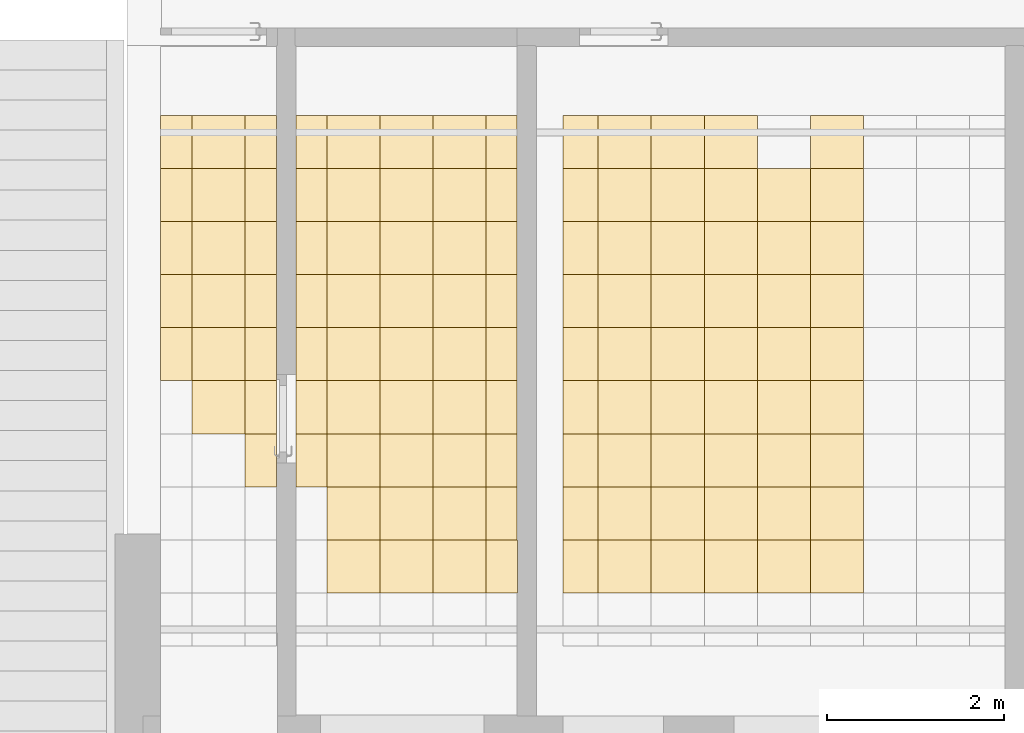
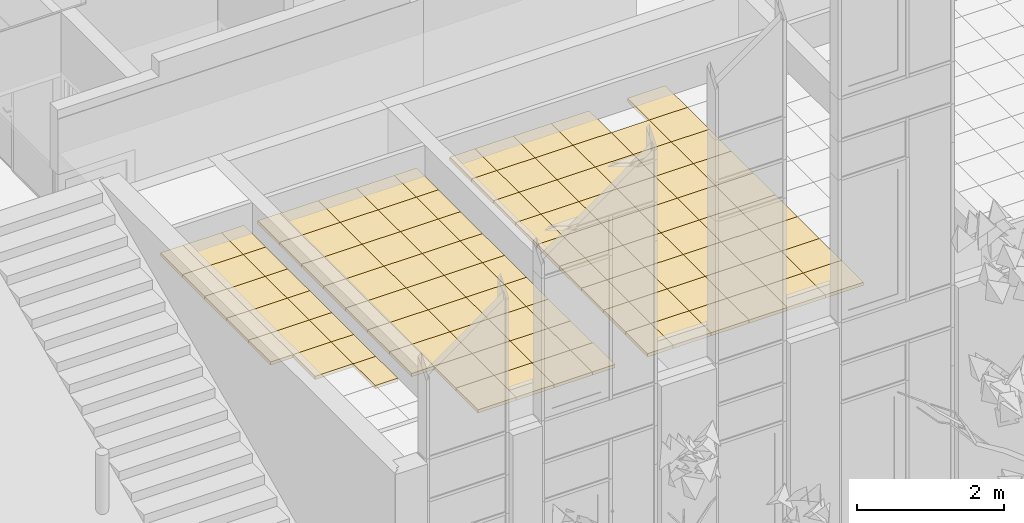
# One storey, part 188 of 246: 114 coverings.
"""IFC2X3 building model written with IfcOpenShell, lengths in millimetres."""

from ifc_helpers import new_model, entity, si_unit, converted_unit, derived_unit, money_unit, direction, frame, origin_with_axes, place, context, subcontext, project, spatial, faceted_brep, material, material_list, type_object, element, save


model = new_model("IFC2X3")

# Units and contexts
model_context = context("Model", 3, precision=0.01, world=origin_with_axes(), true_north=direction((0.0, 1.0)))
body_context = subcontext(model_context, "Body", "Model", "MODEL_VIEW")
ifc_project = project(units=[si_unit("LENGTHUNIT", "METRE", prefix="MILLI"), si_unit("AREAUNIT", "SQUARE_METRE"), si_unit("VOLUMEUNIT", "CUBIC_METRE"), converted_unit("PLANEANGLEUNIT", "DEGREE", entity("IfcPlaneAngleMeasure", 0.0174532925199), si_unit("PLANEANGLEUNIT", "RADIAN"), dimensions=[0, 0, 0, 0, 0, 0, 0]), si_unit("SOLIDANGLEUNIT", "STERADIAN"), money_unit("EUR"), converted_unit("TIMEUNIT", "Year", entity("IfcTimeMeasure", 31556926.0), si_unit("TIMEUNIT", "SECOND"), dimensions=[0, 0, 1, 0, 0, 0, 0]), si_unit("MASSUNIT", "GRAM", prefix="KILO"), si_unit("THERMODYNAMICTEMPERATUREUNIT", "DEGREE_CELSIUS"), si_unit("LUMINOUSINTENSITYUNIT", "LUMEN"), si_unit("ENERGYUNIT", "JOULE", prefix="MEGA"), derived_unit("THERMALCONDUCTANCEUNIT", [(si_unit("POWERUNIT", "WATT"), 1), (si_unit("LENGTHUNIT", "METRE"), -1), (si_unit("THERMODYNAMICTEMPERATUREUNIT", "KELVIN"), -1)]), derived_unit("SPECIFICHEATCAPACITYUNIT", [(si_unit("ENERGYUNIT", "JOULE"), 1), (si_unit("MASSUNIT", "GRAM", prefix="KILO"), -1), (si_unit("THERMODYNAMICTEMPERATUREUNIT", "KELVIN"), -1)]), derived_unit("MASSDENSITYUNIT", [(si_unit("MASSUNIT", "GRAM", prefix="KILO"), 1), (si_unit("VOLUMEUNIT", "CUBIC_METRE"), -1)])], contexts=[model_context])

# Site, building, storey
site_placement = place(None, origin_with_axes())
site = spatial("IfcSite", under=ifc_project, at=site_placement, Name="L.Koidula tn 11b", CompositionType="ELEMENT")
building_placement = place(site_placement, origin_with_axes())
building = spatial("IfcBuilding", under=site, at=building_placement, Name="Rakvere Riigigümnaasium", CompositionType="ELEMENT")
storey_placement = place(building_placement, origin_with_axes())
storey = spatial("IfcBuildingStorey", under=building, at=storey_placement, Name="1.korrus 0,00", CompositionType="ELEMENT", Elevation=0.0)

# Coverings
ifc_material_1 = material(Name="Karkass")
ifc_material_2 = material(Name="Kipsplaat")
ifc_material_list = material_list([ifc_material_1, ifc_material_2])
covering_type = type_object("IfcCoveringType", Name="SA-LV-Kips-moodul 55", PredefinedType="CEILING")
for number, where, z_axis, x_axis, name in (
    (1, (36455.0000521, 11090.4544728, 2750.0), (0.0, 0.0, 1.0), (1.0, 0.0, 0.0), "L-03"),
    (2, (36455.0000521, 10490.4544728, 2750.0), (0.0, 0.0, 1.0), (1.0, 0.0, 0.0), "L-03"),
    (3, (36455.0000521, 9890.4544728, 2750.0), (0.0, 0.0, 1.0), (1.0, 0.0, 0.0), "L-03"),
    (4, (36455.0000521, 9290.4544728, 2750.0), (0.0, 0.0, 1.0), (1.0, 0.0, 0.0), "L-03"),
    (5, (36455.0000521, 8690.4544728, 2750.0), (0.0, 0.0, 1.0), (1.0, 0.0, 0.0), "L-03"),
    (6, (36455.0000521, 8090.4544728, 2750.0), (0.0, 0.0, 1.0), (1.0, 0.0, 0.0), "L-03"),
    (7, (36455.0000521, 11690.4544728, 2750.0), (0.0, 0.0, 1.0), (1.0, 0.0, 0.0), "L-03"),
):
    element("IfcCovering", number, at=place(storey_placement, frame(where, z_axis=z_axis, x_axis=x_axis)), inside=storey, type_object=covering_type, material=ifc_material_list, Name=name, PredefinedType="CEILING", context=body_context, shape_type="Brep", body=[
        faceted_brep([(354.999948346, 0.0, 12.5), (354.999948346, 0.0, 54.5), (0.0, 0.0, 54.5), (0.0, 0.0, 12.5), (354.999948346, 600.0, 12.5), (354.999948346, 600.0, 54.5), (0.0, 600.0, 54.5), (0.0, 600.0, 12.5)], [[[0, 1, 2, 3]], [[4, 5, 1, 0]], [[2, 1, 5, 6]], [[3, 2, 6, 7]], [[3, 7, 4, 0]], [[7, 6, 5, 4]]]),
        faceted_brep([(0.0, 0.0, 0.0), (354.999948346, 0.0, 0.0), (354.999948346, 0.0, 12.5), (0.0, 0.0, 12.5), (0.0, 600.0, 0.0), (354.999948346, 600.0, 0.0), (354.999948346, 600.0, 12.5), (0.0, 600.0, 12.5)], [[[0, 1, 2, 3]], [[0, 4, 5, 1]], [[1, 5, 6, 2]], [[3, 2, 6, 7]], [[4, 0, 3, 7]], [[5, 4, 7, 6]]]),
    ])
covering_1_placement = place(storey_placement, frame((35855.0000521, 8690.4544728, 2750.0), z_axis=(0.0, 0.0, 1.0), x_axis=(1.0, 0.0, 0.0)))
element("IfcCovering", 8, at=covering_1_placement, inside=storey, type_object=covering_type, material=ifc_material_list, Name="L-03", PredefinedType="CEILING", context=body_context, shape_type="Brep", body=[
    faceted_brep([(600.0, 0.0, 12.5), (600.0, 0.0, 54.5), (0.0, 0.0, 54.5), (0.0, 0.0, 12.5), (600.0, 600.0, 12.5), (600.0, 600.0, 54.5), (0.0, 600.0, 54.5), (0.0, 600.0, 12.5)], [[[0, 1, 2, 3]], [[4, 5, 1, 0]], [[2, 1, 5, 6]], [[3, 2, 6, 7]], [[3, 7, 4, 0]], [[7, 6, 5, 4]]]),
    faceted_brep([(0.0, 0.0, 0.0), (600.0, 0.0, 0.0), (600.0, 0.0, 12.5), (0.0, 0.0, 12.5), (0.0, 600.0, 0.0), (600.0, 600.0, 0.0), (600.0, 600.0, 12.5), (0.0, 600.0, 12.5)], [[[0, 1, 2, 3]], [[0, 4, 5, 1]], [[1, 5, 6, 2]], [[3, 2, 6, 7]], [[4, 0, 3, 7]], [[5, 4, 7, 6]]]),
])
covering_2_placement = place(storey_placement, frame((35500.0000521, 9290.4544728, 2750.0), z_axis=(0.0, 0.0, 1.0), x_axis=(1.0, 0.0, 0.0)))
element("IfcCovering", 9, at=covering_2_placement, inside=storey, type_object=covering_type, material=ifc_material_list, Name="L-03", PredefinedType="CEILING", context=body_context, shape_type="Brep", body=[
    faceted_brep([(355.0, 0.0, 12.5), (355.0, 0.0, 54.5), (0.0, 0.0, 54.5), (0.0, 0.0, 12.5), (355.0, 600.0, 12.5), (355.0, 600.0, 54.5), (0.0, 600.0, 54.5), (0.0, 600.0, 12.5)], [[[0, 1, 2, 3]], [[4, 5, 1, 0]], [[2, 1, 5, 6]], [[3, 2, 6, 7]], [[3, 7, 4, 0]], [[7, 6, 5, 4]]]),
    faceted_brep([(0.0, 0.0, 0.0), (355.0, 0.0, 0.0), (355.0, 0.0, 12.5), (0.0, 0.0, 12.5), (0.0, 600.0, 0.0), (355.0, 600.0, 0.0), (355.0, 600.0, 12.5), (0.0, 600.0, 12.5)], [[[0, 1, 2, 3]], [[0, 4, 5, 1]], [[1, 5, 6, 2]], [[3, 2, 6, 7]], [[4, 0, 3, 7]], [[5, 4, 7, 6]]]),
])
covering_3_placement = place(storey_placement, frame((35855.0000521, 9290.4544728, 2750.0), z_axis=(0.0, 0.0, 1.0), x_axis=(1.0, 0.0, 0.0)))
element("IfcCovering", 10, at=covering_3_placement, inside=storey, type_object=covering_type, material=ifc_material_list, Name="L-03", PredefinedType="CEILING", context=body_context, shape_type="Brep", body=[
    faceted_brep([(600.0, 0.0, 12.5), (600.0, 0.0, 54.5), (0.0, 0.0, 54.5), (0.0, 0.0, 12.5), (600.0, 600.0, 12.5), (600.0, 600.0, 54.5), (0.0, 600.0, 54.5), (0.0, 600.0, 12.5)], [[[0, 1, 2, 3]], [[4, 5, 1, 0]], [[2, 1, 5, 6]], [[3, 2, 6, 7]], [[3, 7, 4, 0]], [[7, 6, 5, 4]]]),
    faceted_brep([(0.0, 0.0, 0.0), (600.0, 0.0, 0.0), (600.0, 0.0, 12.5), (0.0, 0.0, 12.5), (0.0, 600.0, 0.0), (600.0, 600.0, 0.0), (600.0, 600.0, 12.5), (0.0, 600.0, 12.5)], [[[0, 1, 2, 3]], [[0, 4, 5, 1]], [[1, 5, 6, 2]], [[3, 2, 6, 7]], [[4, 0, 3, 7]], [[5, 4, 7, 6]]]),
])
covering_4_placement = place(storey_placement, frame((35500.0000521, 9890.4544728, 2750.0), z_axis=(0.0, 0.0, 1.0), x_axis=(1.0, 0.0, 0.0)))
element("IfcCovering", 11, at=covering_4_placement, inside=storey, type_object=covering_type, material=ifc_material_list, Name="L-03", PredefinedType="CEILING", context=body_context, shape_type="Brep", body=[
    faceted_brep([(355.0, 0.0, 12.5), (355.0, 0.0, 54.5), (0.0, 0.0, 54.5), (0.0, 0.0, 12.5), (355.0, 600.0, 12.5), (355.0, 600.0, 54.5), (0.0, 600.0, 54.5), (0.0, 600.0, 12.5)], [[[0, 1, 2, 3]], [[4, 5, 1, 0]], [[2, 1, 5, 6]], [[3, 2, 6, 7]], [[3, 7, 4, 0]], [[7, 6, 5, 4]]]),
    faceted_brep([(0.0, 0.0, 0.0), (355.0, 0.0, 0.0), (355.0, 0.0, 12.5), (0.0, 0.0, 12.5), (0.0, 600.0, 0.0), (355.0, 600.0, 0.0), (355.0, 600.0, 12.5), (0.0, 600.0, 12.5)], [[[0, 1, 2, 3]], [[0, 4, 5, 1]], [[1, 5, 6, 2]], [[3, 2, 6, 7]], [[4, 0, 3, 7]], [[5, 4, 7, 6]]]),
])
covering_5_placement = place(storey_placement, frame((35855.0000521, 9890.4544728, 2750.0), z_axis=(0.0, 0.0, 1.0), x_axis=(1.0, 0.0, 0.0)))
element("IfcCovering", 12, at=covering_5_placement, inside=storey, type_object=covering_type, material=ifc_material_list, Name="L-03", PredefinedType="CEILING", context=body_context, shape_type="Brep", body=[
    faceted_brep([(600.0, 0.0, 12.5), (600.0, 0.0, 54.5), (0.0, 0.0, 54.5), (0.0, 0.0, 12.5), (600.0, 600.0, 12.5), (600.0, 600.0, 54.5), (0.0, 600.0, 54.5), (0.0, 600.0, 12.5)], [[[0, 1, 2, 3]], [[4, 5, 1, 0]], [[2, 1, 5, 6]], [[3, 2, 6, 7]], [[3, 7, 4, 0]], [[7, 6, 5, 4]]]),
    faceted_brep([(0.0, 0.0, 0.0), (600.0, 0.0, 0.0), (600.0, 0.0, 12.5), (0.0, 0.0, 12.5), (0.0, 600.0, 0.0), (600.0, 600.0, 0.0), (600.0, 600.0, 12.5), (0.0, 600.0, 12.5)], [[[0, 1, 2, 3]], [[0, 4, 5, 1]], [[1, 5, 6, 2]], [[3, 2, 6, 7]], [[4, 0, 3, 7]], [[5, 4, 7, 6]]]),
])
covering_6_placement = place(storey_placement, frame((35500.0000521, 10490.4544728, 2750.0), z_axis=(0.0, 0.0, 1.0), x_axis=(1.0, 0.0, 0.0)))
element("IfcCovering", 13, at=covering_6_placement, inside=storey, type_object=covering_type, material=ifc_material_list, Name="L-03", PredefinedType="CEILING", context=body_context, shape_type="Brep", body=[
    faceted_brep([(355.0, 0.0, 12.5), (355.0, 0.0, 54.5), (0.0, 0.0, 54.5), (0.0, 0.0, 12.5), (355.0, 600.0, 12.5), (355.0, 600.0, 54.5), (0.0, 600.0, 54.5), (0.0, 600.0, 12.5)], [[[0, 1, 2, 3]], [[4, 5, 1, 0]], [[2, 1, 5, 6]], [[3, 2, 6, 7]], [[3, 7, 4, 0]], [[7, 6, 5, 4]]]),
    faceted_brep([(0.0, 0.0, 0.0), (355.0, 0.0, 0.0), (355.0, 0.0, 12.5), (0.0, 0.0, 12.5), (0.0, 600.0, 0.0), (355.0, 600.0, 0.0), (355.0, 600.0, 12.5), (0.0, 600.0, 12.5)], [[[0, 1, 2, 3]], [[0, 4, 5, 1]], [[1, 5, 6, 2]], [[3, 2, 6, 7]], [[4, 0, 3, 7]], [[5, 4, 7, 6]]]),
])
covering_7_placement = place(storey_placement, frame((35855.0000521, 10490.4544728, 2750.0), z_axis=(0.0, 0.0, 1.0), x_axis=(1.0, 0.0, 0.0)))
element("IfcCovering", 14, at=covering_7_placement, inside=storey, type_object=covering_type, material=ifc_material_list, Name="L-03", PredefinedType="CEILING", context=body_context, shape_type="Brep", body=[
    faceted_brep([(600.0, 0.0, 12.5), (600.0, 0.0, 54.5), (0.0, 0.0, 54.5), (0.0, 0.0, 12.5), (600.0, 600.0, 12.5), (600.0, 600.0, 54.5), (0.0, 600.0, 54.5), (0.0, 600.0, 12.5)], [[[0, 1, 2, 3]], [[4, 5, 1, 0]], [[2, 1, 5, 6]], [[3, 2, 6, 7]], [[3, 7, 4, 0]], [[7, 6, 5, 4]]]),
    faceted_brep([(0.0, 0.0, 0.0), (600.0, 0.0, 0.0), (600.0, 0.0, 12.5), (0.0, 0.0, 12.5), (0.0, 600.0, 0.0), (600.0, 600.0, 0.0), (600.0, 600.0, 12.5), (0.0, 600.0, 12.5)], [[[0, 1, 2, 3]], [[0, 4, 5, 1]], [[1, 5, 6, 2]], [[3, 2, 6, 7]], [[4, 0, 3, 7]], [[5, 4, 7, 6]]]),
])
covering_8_placement = place(storey_placement, frame((35500.0000521, 11090.4544728, 2750.0), z_axis=(0.0, 0.0, 1.0), x_axis=(1.0, 0.0, 0.0)))
element("IfcCovering", 15, at=covering_8_placement, inside=storey, type_object=covering_type, material=ifc_material_list, Name="L-03", PredefinedType="CEILING", context=body_context, shape_type="Brep", body=[
    faceted_brep([(355.0, 0.0, 12.5), (355.0, 0.0, 54.5), (0.0, 0.0, 54.5), (0.0, 0.0, 12.5), (355.0, 600.0, 12.5), (355.0, 600.0, 54.5), (0.0, 600.0, 54.5), (0.0, 600.0, 12.5)], [[[0, 1, 2, 3]], [[4, 5, 1, 0]], [[2, 1, 5, 6]], [[3, 2, 6, 7]], [[3, 7, 4, 0]], [[7, 6, 5, 4]]]),
    faceted_brep([(0.0, 0.0, 0.0), (355.0, 0.0, 0.0), (355.0, 0.0, 12.5), (0.0, 0.0, 12.5), (0.0, 600.0, 0.0), (355.0, 600.0, 0.0), (355.0, 600.0, 12.5), (0.0, 600.0, 12.5)], [[[0, 1, 2, 3]], [[0, 4, 5, 1]], [[1, 5, 6, 2]], [[3, 2, 6, 7]], [[4, 0, 3, 7]], [[5, 4, 7, 6]]]),
])
for number, where, z_axis, x_axis, name in (
    (16, (35855.0000521, 11090.4544728, 2750.0), (0.0, 0.0, 1.0), (1.0, 0.0, 0.0), "L-03"),
    (17, (35855.0000521, 11690.4544728, 2750.0), (0.0, 0.0, 1.0), (1.0, 0.0, 0.0), "L-03"),
):
    element("IfcCovering", number, at=place(storey_placement, frame(where, z_axis=z_axis, x_axis=x_axis)), inside=storey, type_object=covering_type, material=ifc_material_list, Name=name, PredefinedType="CEILING", context=body_context, shape_type="Brep", body=[
        faceted_brep([(600.0, 0.0, 12.5), (600.0, 0.0, 54.5), (0.0, 0.0, 54.5), (0.0, 0.0, 12.5), (600.0, 600.0, 12.5), (600.0, 600.0, 54.5), (0.0, 600.0, 54.5), (0.0, 600.0, 12.5)], [[[0, 1, 2, 3]], [[4, 5, 1, 0]], [[2, 1, 5, 6]], [[3, 2, 6, 7]], [[3, 7, 4, 0]], [[7, 6, 5, 4]]]),
        faceted_brep([(0.0, 0.0, 0.0), (600.0, 0.0, 0.0), (600.0, 0.0, 12.5), (0.0, 0.0, 12.5), (0.0, 600.0, 0.0), (600.0, 600.0, 0.0), (600.0, 600.0, 12.5), (0.0, 600.0, 12.5)], [[[0, 1, 2, 3]], [[0, 4, 5, 1]], [[1, 5, 6, 2]], [[3, 2, 6, 7]], [[4, 0, 3, 7]], [[5, 4, 7, 6]]]),
    ])
covering_9_placement = place(storey_placement, frame((35500.0000521, 11690.4544728, 2750.0), z_axis=(0.0, 0.0, 1.0), x_axis=(1.0, 0.0, 0.0)))
element("IfcCovering", 18, at=covering_9_placement, inside=storey, type_object=covering_type, material=ifc_material_list, Name="L-03", PredefinedType="CEILING", context=body_context, shape_type="Brep", body=[
    faceted_brep([(355.0, 0.0, 12.5), (355.0, 0.0, 54.5), (0.0, 0.0, 54.5), (0.0, 0.0, 12.5), (355.0, 600.0, 12.5), (355.0, 600.0, 54.5), (0.0, 600.0, 54.5), (0.0, 600.0, 12.5)], [[[0, 1, 2, 3]], [[4, 5, 1, 0]], [[2, 1, 5, 6]], [[3, 2, 6, 7]], [[3, 7, 4, 0]], [[7, 6, 5, 4]]]),
    faceted_brep([(0.0, 0.0, 0.0), (355.0, 0.0, 0.0), (355.0, 0.0, 12.5), (0.0, 0.0, 12.5), (0.0, 600.0, 0.0), (355.0, 600.0, 0.0), (355.0, 600.0, 12.5), (0.0, 600.0, 12.5)], [[[0, 1, 2, 3]], [[0, 4, 5, 1]], [[1, 5, 6, 2]], [[3, 2, 6, 7]], [[4, 0, 3, 7]], [[5, 4, 7, 6]]]),
])
for number, where, z_axis, x_axis, name in (
    (19, (37380.0000024, 11090.4579673, 2750.0), (0.0, 0.0, 1.0), (1.0, 0.0, 0.0), "L-03"),
    (20, (37380.0000024, 10490.4579673, 2750.0), (0.0, 0.0, 1.0), (1.0, 0.0, 0.0), "L-03"),
    (21, (37380.0000024, 9890.45796731, 2750.0), (0.0, 0.0, 1.0), (1.0, 0.0, 0.0), "L-03"),
    (22, (37380.0000024, 9290.45796731, 2750.0), (0.0, 0.0, 1.0), (1.0, 0.0, 0.0), "L-03"),
    (23, (37380.0000024, 8690.45796731, 2750.0), (0.0, 0.0, 1.0), (1.0, 0.0, 0.0), "L-03"),
    (24, (37380.0000024, 8090.45796731, 2750.0), (0.0, 0.0, 1.0), (1.0, 0.0, 0.0), "L-03"),
    (25, (37380.0000024, 7490.45796731, 2750.0), (0.0, 0.0, 1.0), (1.0, 0.0, 0.0), "L-03"),
    (26, (37380.0000024, 11690.4579673, 2750.0), (0.0, 0.0, 1.0), (1.0, 0.0, 0.0), "L-03"),
    (27, (37380.0000024, 6890.45796731, 2750.0), (0.0, 0.0, 1.0), (1.0, 0.0, 0.0), "L-03"),
):
    element("IfcCovering", number, at=place(storey_placement, frame(where, z_axis=z_axis, x_axis=x_axis)), inside=storey, type_object=covering_type, material=ifc_material_list, Name=name, PredefinedType="CEILING", context=body_context, shape_type="Brep", body=[
        faceted_brep([(599.999948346, 0.0, 12.5), (599.999948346, 0.0, 54.5), (0.0, 0.0, 54.5), (0.0, 0.0, 12.5), (599.999948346, 600.0, 12.5), (599.999948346, 600.0, 54.5), (0.0, 600.0, 54.5), (0.0, 600.0, 12.5)], [[[0, 1, 2, 3]], [[4, 5, 1, 0]], [[2, 1, 5, 6]], [[3, 2, 6, 7]], [[3, 7, 4, 0]], [[7, 6, 5, 4]]]),
        faceted_brep([(0.0, 0.0, 0.0), (599.999948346, 0.0, 0.0), (599.999948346, 0.0, 12.5), (0.0, 0.0, 12.5), (0.0, 600.0, 0.0), (599.999948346, 600.0, 0.0), (599.999948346, 600.0, 12.5), (0.0, 600.0, 12.5)], [[[0, 1, 2, 3]], [[0, 4, 5, 1]], [[1, 5, 6, 2]], [[3, 2, 6, 7]], [[4, 0, 3, 7]], [[5, 4, 7, 6]]]),
    ])
for number, where, z_axis, x_axis, name in (
    (28, (37030.0000024, 8090.45796731, 2750.0), (0.0, 0.0, 1.0), (1.0, 0.0, 0.0), "L-03"),
    (29, (37030.0000024, 8690.45796731, 2750.0), (0.0, 0.0, 1.0), (1.0, 0.0, 0.0), "L-03"),
    (30, (37030.0000024, 9290.45796731, 2750.0), (0.0, 0.0, 1.0), (1.0, 0.0, 0.0), "L-03"),
    (31, (37030.0000024, 9890.45796731, 2750.0), (0.0, 0.0, 1.0), (1.0, 0.0, 0.0), "L-03"),
    (32, (37030.0000024, 10490.4579673, 2750.0), (0.0, 0.0, 1.0), (1.0, 0.0, 0.0), "L-03"),
    (33, (37030.0000024, 11090.4579673, 2750.0), (0.0, 0.0, 1.0), (1.0, 0.0, 0.0), "L-03"),
    (34, (37030.0000024, 11690.4579673, 2750.0), (0.0, 0.0, 1.0), (1.0, 0.0, 0.0), "L-03"),
):
    element("IfcCovering", number, at=place(storey_placement, frame(where, z_axis=z_axis, x_axis=x_axis)), inside=storey, type_object=covering_type, material=ifc_material_list, Name=name, PredefinedType="CEILING", context=body_context, shape_type="Brep", body=[
        faceted_brep([(350.0, 0.0, 12.5), (350.0, 0.0, 54.5), (0.0, 0.0, 54.5), (0.0, 0.0, 12.5), (350.0, 600.0, 12.5), (350.0, 600.0, 54.5), (0.0, 600.0, 54.5), (0.0, 600.0, 12.5)], [[[0, 1, 2, 3]], [[4, 5, 1, 0]], [[2, 1, 5, 6]], [[3, 2, 6, 7]], [[3, 7, 4, 0]], [[7, 6, 5, 4]]]),
        faceted_brep([(0.0, 0.0, 0.0), (350.0, 0.0, 0.0), (350.0, 0.0, 12.5), (0.0, 0.0, 12.5), (0.0, 600.0, 0.0), (350.0, 600.0, 0.0), (350.0, 600.0, 12.5), (0.0, 600.0, 12.5)], [[[0, 1, 2, 3]], [[0, 4, 5, 1]], [[1, 5, 6, 2]], [[3, 2, 6, 7]], [[4, 0, 3, 7]], [[5, 4, 7, 6]]]),
    ])
for number, where, z_axis, x_axis, name in (
    (35, (38579.9999508, 11090.4579673, 2750.0), (0.0, 0.0, 1.0), (1.0, 0.0, 0.0), "L-03"),
    (36, (38579.9999508, 10490.4579673, 2750.0), (0.0, 0.0, 1.0), (1.0, 0.0, 0.0), "L-03"),
    (37, (38579.9999508, 9890.45796731, 2750.0), (0.0, 0.0, 1.0), (1.0, 0.0, 0.0), "L-03"),
    (38, (38579.9999508, 9290.45796731, 2750.0), (0.0, 0.0, 1.0), (1.0, 0.0, 0.0), "L-03"),
    (39, (38579.9999508, 8690.45796731, 2750.0), (0.0, 0.0, 1.0), (1.0, 0.0, 0.0), "L-03"),
    (40, (38579.9999508, 8090.45796731, 2750.0), (0.0, 0.0, 1.0), (1.0, 0.0, 0.0), "L-03"),
    (41, (38579.9999508, 7490.45796731, 2750.0), (0.0, 0.0, 1.0), (1.0, 0.0, 0.0), "L-03"),
    (42, (38579.9999508, 11690.4579673, 2750.0), (0.0, 0.0, 1.0), (1.0, 0.0, 0.0), "L-03"),
    (43, (38579.9999508, 6890.45796731, 2750.0), (0.0, 0.0, 1.0), (1.0, 0.0, 0.0), "L-03"),
):
    element("IfcCovering", number, at=place(storey_placement, frame(where, z_axis=z_axis, x_axis=x_axis)), inside=storey, type_object=covering_type, material=ifc_material_list, Name=name, PredefinedType="CEILING", context=body_context, shape_type="Brep", body=[
        faceted_brep([(599.999948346, 0.0, 12.5), (599.999948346, 0.0, 54.5), (0.0, 0.0, 54.5), (0.0, 0.0, 12.5), (599.999948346, 600.0, 12.5), (599.999948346, 600.0, 54.5), (0.0, 600.0, 54.5), (0.0, 600.0, 12.5)], [[[0, 1, 2, 3]], [[4, 5, 1, 0]], [[2, 1, 5, 6]], [[3, 2, 6, 7]], [[3, 7, 4, 0]], [[7, 6, 5, 4]]]),
        faceted_brep([(0.0, 0.0, 0.0), (599.999948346, 0.0, 0.0), (599.999948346, 0.0, 12.5), (0.0, 0.0, 12.5), (0.0, 600.0, 0.0), (599.999948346, 600.0, 0.0), (599.999948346, 600.0, 12.5), (0.0, 600.0, 12.5)], [[[0, 1, 2, 3]], [[0, 4, 5, 1]], [[1, 5, 6, 2]], [[3, 2, 6, 7]], [[4, 0, 3, 7]], [[5, 4, 7, 6]]]),
    ])
for number, where, z_axis, x_axis, name in (
    (44, (37979.9999508, 7490.45796731, 2750.0), (0.0, 0.0, 1.0), (1.0, 0.0, 0.0), "L-03"),
    (45, (37979.9999508, 8090.45796731, 2750.0), (0.0, 0.0, 1.0), (1.0, 0.0, 0.0), "L-03"),
    (46, (37979.9999508, 8690.45796731, 2750.0), (0.0, 0.0, 1.0), (1.0, 0.0, 0.0), "L-03"),
    (47, (37979.9999508, 9290.45796731, 2750.0), (0.0, 0.0, 1.0), (1.0, 0.0, 0.0), "L-03"),
    (48, (37979.9999508, 9890.45796731, 2750.0), (0.0, 0.0, 1.0), (1.0, 0.0, 0.0), "L-03"),
    (49, (37979.9999508, 10490.4579673, 2750.0), (0.0, 0.0, 1.0), (1.0, 0.0, 0.0), "L-03"),
    (50, (37979.9999508, 11090.4579673, 2750.0), (0.0, 0.0, 1.0), (1.0, 0.0, 0.0), "L-03"),
    (51, (37979.9999508, 11690.4579673, 2750.0), (0.0, 0.0, 1.0), (1.0, 0.0, 0.0), "L-03"),
    (52, (37979.9999508, 6890.45796731, 2750.0), (0.0, 0.0, 1.0), (1.0, 0.0, 0.0), "L-03"),
):
    element("IfcCovering", number, at=place(storey_placement, frame(where, z_axis=z_axis, x_axis=x_axis)), inside=storey, type_object=covering_type, material=ifc_material_list, Name=name, PredefinedType="CEILING", context=body_context, shape_type="Brep", body=[
        faceted_brep([(600.0, 0.0, 12.5), (600.0, 0.0, 54.5), (0.0, 0.0, 54.5), (0.0, 0.0, 12.5), (600.0, 600.0, 12.5), (600.0, 600.0, 54.5), (0.0, 600.0, 54.5), (0.0, 600.0, 12.5)], [[[0, 1, 2, 3]], [[4, 5, 1, 0]], [[2, 1, 5, 6]], [[3, 2, 6, 7]], [[3, 7, 4, 0]], [[7, 6, 5, 4]]]),
        faceted_brep([(0.0, 0.0, 0.0), (600.0, 0.0, 0.0), (600.0, 0.0, 12.5), (0.0, 0.0, 12.5), (0.0, 600.0, 0.0), (600.0, 600.0, 0.0), (600.0, 600.0, 12.5), (0.0, 600.0, 12.5)], [[[0, 1, 2, 3]], [[0, 4, 5, 1]], [[1, 5, 6, 2]], [[3, 2, 6, 7]], [[4, 0, 3, 7]], [[5, 4, 7, 6]]]),
    ])
for number, where, z_axis, x_axis, name in (
    (53, (39179.9998991, 7490.45796731, 2750.0), (0.0, 0.0, 1.0), (1.0, 0.0, 0.0), "L-03"),
    (54, (39179.9998991, 8090.45796731, 2750.0), (0.0, 0.0, 1.0), (1.0, 0.0, 0.0), "L-03"),
    (55, (39179.9998991, 8690.45796731, 2750.0), (0.0, 0.0, 1.0), (1.0, 0.0, 0.0), "L-03"),
    (56, (39179.9998991, 9290.45796731, 2750.0), (0.0, 0.0, 1.0), (1.0, 0.0, 0.0), "L-03"),
    (57, (39179.9998991, 9890.45796731, 2750.0), (0.0, 0.0, 1.0), (1.0, 0.0, 0.0), "L-03"),
    (58, (39179.9998991, 10490.4579673, 2750.0), (0.0, 0.0, 1.0), (1.0, 0.0, 0.0), "L-03"),
    (59, (39179.9998991, 11090.4579673, 2750.0), (0.0, 0.0, 1.0), (1.0, 0.0, 0.0), "L-03"),
    (60, (39179.9998991, 11690.4579673, 2750.0), (0.0, 0.0, 1.0), (1.0, 0.0, 0.0), "L-03"),
):
    element("IfcCovering", number, at=place(storey_placement, frame(where, z_axis=z_axis, x_axis=x_axis)), inside=storey, type_object=covering_type, material=ifc_material_list, Name=name, PredefinedType="CEILING", context=body_context, shape_type="Brep", body=[
        faceted_brep([(350.000101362, 0.0, 12.5), (350.000101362, 0.0, 54.5), (0.0, 0.0, 54.5), (0.0, 0.0, 12.5), (350.000101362, 600.0, 12.5), (350.000101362, 600.0, 54.5), (0.0, 600.0, 54.5), (0.0, 600.0, 12.5)], [[[0, 1, 2, 3]], [[4, 5, 1, 0]], [[2, 1, 5, 6]], [[3, 2, 6, 7]], [[3, 7, 4, 0]], [[7, 6, 5, 4]]]),
        faceted_brep([(0.0, 0.0, 0.0), (350.000101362, 0.0, 0.0), (350.000101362, 0.0, 12.5), (0.0, 0.0, 12.5), (0.0, 600.0, 0.0), (350.000101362, 600.0, 0.0), (350.000101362, 600.0, 12.5), (0.0, 600.0, 12.5)], [[[0, 1, 2, 3]], [[0, 4, 5, 1]], [[1, 5, 6, 2]], [[3, 2, 6, 7]], [[4, 0, 3, 7]], [[5, 4, 7, 6]]]),
    ])
covering_10_placement = place(storey_placement, frame((39179.9998991, 6890.45796731, 2750.0), z_axis=(0.0, 0.0, 1.0), x_axis=(1.0, 0.0, 0.0)))
element("IfcCovering", 61, at=covering_10_placement, inside=storey, type_object=covering_type, material=ifc_material_list, Name="L-03", PredefinedType="CEILING", context=body_context, shape_type="Brep", body=[
    faceted_brep([(360.000101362, 0.0, 12.5), (360.000101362, 0.0, 54.5), (0.0, 0.0, 54.5), (0.0, 0.0, 12.5), (360.000101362, 600.0, 12.5), (360.000101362, 600.0, 54.5), (0.0, 600.0, 54.5), (0.0, 600.0, 12.5)], [[[0, 1, 2, 3]], [[4, 5, 1, 0]], [[2, 1, 5, 6]], [[3, 2, 6, 7]], [[3, 7, 4, 0]], [[7, 6, 5, 4]]]),
    faceted_brep([(0.0, 0.0, 0.0), (360.000101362, 0.0, 0.0), (360.000101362, 0.0, 12.5), (0.0, 0.0, 12.5), (0.0, 600.0, 0.0), (360.000101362, 600.0, 0.0), (360.000101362, 600.0, 12.5), (0.0, 600.0, 12.5)], [[[0, 1, 2, 3]], [[0, 4, 5, 1]], [[1, 5, 6, 2]], [[3, 2, 6, 7]], [[4, 0, 3, 7]], [[5, 4, 7, 6]]]),
])
for number, where, z_axis, x_axis, name in (
    (62, (40450.0011648, 11090.4535941, 2750.0), (0.0, 0.0, 1.0), (1.0, 0.0, 0.0), "L-03"),
    (63, (40450.0011648, 10490.4535941, 2750.0), (0.0, 0.0, 1.0), (1.0, 0.0, 0.0), "L-03"),
    (64, (40450.0011648, 9890.45359412, 2750.0), (0.0, 0.0, 1.0), (1.0, 0.0, 0.0), "L-03"),
    (65, (40450.0011648, 9290.45359412, 2750.0), (0.0, 0.0, 1.0), (1.0, 0.0, 0.0), "L-03"),
    (66, (40450.0011648, 8690.45359412, 2750.0), (0.0, 0.0, 1.0), (1.0, 0.0, 0.0), "L-03"),
    (67, (40450.0011648, 8090.45359412, 2750.0), (0.0, 0.0, 1.0), (1.0, 0.0, 0.0), "L-03"),
    (68, (40450.0011648, 7490.45359412, 2750.0), (0.0, 0.0, 1.0), (1.0, 0.0, 0.0), "L-03"),
    (69, (40450.0011648, 11690.4535941, 2750.0), (0.0, 0.0, 1.0), (1.0, 0.0, 0.0), "L-03"),
    (70, (40450.0011648, 6890.45359412, 2750.0), (0.0, 0.0, 1.0), (1.0, 0.0, 0.0), "L-03"),
):
    element("IfcCovering", number, at=place(storey_placement, frame(where, z_axis=z_axis, x_axis=x_axis)), inside=storey, type_object=covering_type, material=ifc_material_list, Name=name, PredefinedType="CEILING", context=body_context, shape_type="Brep", body=[
        faceted_brep([(599.999948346, 0.0, 12.5), (599.999948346, 0.0, 54.5), (0.0, 0.0, 54.5), (0.0, 0.0, 12.5), (599.999948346, 600.0, 12.5), (599.999948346, 600.0, 54.5), (0.0, 600.0, 54.5), (0.0, 600.0, 12.5)], [[[0, 1, 2, 3]], [[4, 5, 1, 0]], [[2, 1, 5, 6]], [[3, 2, 6, 7]], [[3, 7, 4, 0]], [[7, 6, 5, 4]]]),
        faceted_brep([(0.0, 0.0, 0.0), (599.999948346, 0.0, 0.0), (599.999948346, 0.0, 12.5), (0.0, 0.0, 12.5), (0.0, 600.0, 0.0), (599.999948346, 600.0, 0.0), (599.999948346, 600.0, 12.5), (0.0, 600.0, 12.5)], [[[0, 1, 2, 3]], [[0, 4, 5, 1]], [[1, 5, 6, 2]], [[3, 2, 6, 7]], [[4, 0, 3, 7]], [[5, 4, 7, 6]]]),
    ])
for number, where, z_axis, x_axis, name in (
    (71, (40049.9999972, 7490.45359412, 2750.0), (0.0, 0.0, 1.0), (1.0, 0.0, 0.0), "L-03"),
    (72, (40049.9999972, 8090.45359412, 2750.0), (0.0, 0.0, 1.0), (1.0, 0.0, 0.0), "L-03"),
    (73, (40049.9999972, 8690.45359412, 2750.0), (0.0, 0.0, 1.0), (1.0, 0.0, 0.0), "L-03"),
    (74, (40049.9999972, 9290.45359412, 2750.0), (0.0, 0.0, 1.0), (1.0, 0.0, 0.0), "L-03"),
    (75, (40049.9999972, 9890.45359412, 2750.0), (0.0, 0.0, 1.0), (1.0, 0.0, 0.0), "L-03"),
    (76, (40049.9999972, 10490.4535941, 2750.0), (0.0, 0.0, 1.0), (1.0, 0.0, 0.0), "L-03"),
    (77, (40049.9999972, 11090.4535941, 2750.0), (0.0, 0.0, 1.0), (1.0, 0.0, 0.0), "L-03"),
    (78, (40049.9999972, 11690.4535941, 2750.0), (0.0, 0.0, 1.0), (1.0, 0.0, 0.0), "L-03"),
    (79, (40049.9999972, 6890.45359412, 2750.0), (0.0, 0.0, 1.0), (1.0, 0.0, 0.0), "L-03"),
):
    element("IfcCovering", number, at=place(storey_placement, frame(where, z_axis=z_axis, x_axis=x_axis)), inside=storey, type_object=covering_type, material=ifc_material_list, Name=name, PredefinedType="CEILING", context=body_context, shape_type="Brep", body=[
        faceted_brep([(400.001167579, 0.0, 12.5), (400.001167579, 0.0, 54.5), (0.0, 0.0, 54.5), (0.0, 0.0, 12.5), (400.001167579, 600.0, 12.5), (400.001167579, 600.0, 54.5), (0.0, 600.0, 54.5), (0.0, 600.0, 12.5)], [[[0, 1, 2, 3]], [[4, 5, 1, 0]], [[2, 1, 5, 6]], [[3, 2, 6, 7]], [[3, 7, 4, 0]], [[7, 6, 5, 4]]]),
        faceted_brep([(0.0, 0.0, 0.0), (400.001167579, 0.0, 0.0), (400.001167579, 0.0, 12.5), (0.0, 0.0, 12.5), (0.0, 600.0, 0.0), (400.001167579, 600.0, 0.0), (400.001167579, 600.0, 12.5), (0.0, 600.0, 12.5)], [[[0, 1, 2, 3]], [[0, 4, 5, 1]], [[1, 5, 6, 2]], [[3, 2, 6, 7]], [[4, 0, 3, 7]], [[5, 4, 7, 6]]]),
    ])
for number, where, z_axis, x_axis, name in (
    (80, (41650.0011131, 11090.4535941, 2750.0), (0.0, 0.0, 1.0), (1.0, 0.0, 0.0), "L-03"),
    (81, (41650.0011131, 10490.4535941, 2750.0), (0.0, 0.0, 1.0), (1.0, 0.0, 0.0), "L-03"),
    (82, (41650.0011131, 9890.45359412, 2750.0), (0.0, 0.0, 1.0), (1.0, 0.0, 0.0), "L-03"),
    (83, (41650.0011131, 9290.45359412, 2750.0), (0.0, 0.0, 1.0), (1.0, 0.0, 0.0), "L-03"),
    (84, (41650.0011131, 8690.45359412, 2750.0), (0.0, 0.0, 1.0), (1.0, 0.0, 0.0), "L-03"),
    (85, (41650.0011131, 8090.45359412, 2750.0), (0.0, 0.0, 1.0), (1.0, 0.0, 0.0), "L-03"),
    (86, (41650.0011131, 7490.45359412, 2750.0), (0.0, 0.0, 1.0), (1.0, 0.0, 0.0), "L-03"),
    (87, (41650.0011131, 11690.4535941, 2750.0), (0.0, 0.0, 1.0), (1.0, 0.0, 0.0), "L-03"),
    (88, (41650.0011131, 6890.45359412, 2750.0), (0.0, 0.0, 1.0), (1.0, 0.0, 0.0), "L-03"),
):
    element("IfcCovering", number, at=place(storey_placement, frame(where, z_axis=z_axis, x_axis=x_axis)), inside=storey, type_object=covering_type, material=ifc_material_list, Name=name, PredefinedType="CEILING", context=body_context, shape_type="Brep", body=[
        faceted_brep([(599.999948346, 0.0, 12.5), (599.999948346, 0.0, 54.5), (0.0, 0.0, 54.5), (0.0, 0.0, 12.5), (599.999948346, 600.0, 12.5), (599.999948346, 600.0, 54.5), (0.0, 600.0, 54.5), (0.0, 600.0, 12.5)], [[[0, 1, 2, 3]], [[4, 5, 1, 0]], [[2, 1, 5, 6]], [[3, 2, 6, 7]], [[3, 7, 4, 0]], [[7, 6, 5, 4]]]),
        faceted_brep([(0.0, 0.0, 0.0), (599.999948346, 0.0, 0.0), (599.999948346, 0.0, 12.5), (0.0, 0.0, 12.5), (0.0, 600.0, 0.0), (599.999948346, 600.0, 0.0), (599.999948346, 600.0, 12.5), (0.0, 600.0, 12.5)], [[[0, 1, 2, 3]], [[0, 4, 5, 1]], [[1, 5, 6, 2]], [[3, 2, 6, 7]], [[4, 0, 3, 7]], [[5, 4, 7, 6]]]),
    ])
for number, where, z_axis, x_axis, name in (
    (89, (41050.0011131, 7490.45359412, 2750.0), (0.0, 0.0, 1.0), (1.0, 0.0, 0.0), "L-03"),
    (90, (41050.0011131, 8090.45359412, 2750.0), (0.0, 0.0, 1.0), (1.0, 0.0, 0.0), "L-03"),
    (91, (41050.0011131, 8690.45359412, 2750.0), (0.0, 0.0, 1.0), (1.0, 0.0, 0.0), "L-03"),
    (92, (41050.0011131, 9290.45359412, 2750.0), (0.0, 0.0, 1.0), (1.0, 0.0, 0.0), "L-03"),
    (93, (41050.0011131, 9890.45359412, 2750.0), (0.0, 0.0, 1.0), (1.0, 0.0, 0.0), "L-03"),
    (94, (41050.0011131, 10490.4535941, 2750.0), (0.0, 0.0, 1.0), (1.0, 0.0, 0.0), "L-03"),
    (95, (41050.0011131, 11090.4535941, 2750.0), (0.0, 0.0, 1.0), (1.0, 0.0, 0.0), "L-03"),
    (96, (41050.0011131, 11690.4535941, 2750.0), (0.0, 0.0, 1.0), (1.0, 0.0, 0.0), "L-03"),
    (97, (41050.0011131, 6890.45359412, 2750.0), (0.0, 0.0, 1.0), (1.0, 0.0, 0.0), "L-03"),
):
    element("IfcCovering", number, at=place(storey_placement, frame(where, z_axis=z_axis, x_axis=x_axis)), inside=storey, type_object=covering_type, material=ifc_material_list, Name=name, PredefinedType="CEILING", context=body_context, shape_type="Brep", body=[
        faceted_brep([(600.0, 0.0, 12.5), (600.0, 0.0, 54.5), (0.0, 0.0, 54.5), (0.0, 0.0, 12.5), (600.0, 600.0, 12.5), (600.0, 600.0, 54.5), (0.0, 600.0, 54.5), (0.0, 600.0, 12.5)], [[[0, 1, 2, 3]], [[4, 5, 1, 0]], [[2, 1, 5, 6]], [[3, 2, 6, 7]], [[3, 7, 4, 0]], [[7, 6, 5, 4]]]),
        faceted_brep([(0.0, 0.0, 0.0), (600.0, 0.0, 0.0), (600.0, 0.0, 12.5), (0.0, 0.0, 12.5), (0.0, 600.0, 0.0), (600.0, 600.0, 0.0), (600.0, 600.0, 12.5), (0.0, 600.0, 12.5)], [[[0, 1, 2, 3]], [[0, 4, 5, 1]], [[1, 5, 6, 2]], [[3, 2, 6, 7]], [[4, 0, 3, 7]], [[5, 4, 7, 6]]]),
    ])
for number, where, z_axis, x_axis, name in (
    (98, (42850.0010615, 11090.4535941, 2750.0), (0.0, 0.0, 1.0), (1.0, 0.0, 0.0), "L-03"),
    (99, (42850.0010615, 10490.4535941, 2750.0), (0.0, 0.0, 1.0), (1.0, 0.0, 0.0), "L-03"),
    (100, (42850.0010615, 9890.45359412, 2750.0), (0.0, 0.0, 1.0), (1.0, 0.0, 0.0), "L-03"),
    (101, (42850.0010615, 9290.45359412, 2750.0), (0.0, 0.0, 1.0), (1.0, 0.0, 0.0), "L-03"),
    (102, (42850.0010615, 8690.45359412, 2750.0), (0.0, 0.0, 1.0), (1.0, 0.0, 0.0), "L-03"),
    (103, (42850.0010615, 8090.45359412, 2750.0), (0.0, 0.0, 1.0), (1.0, 0.0, 0.0), "L-03"),
    (104, (42850.0010615, 7490.45359412, 2750.0), (0.0, 0.0, 1.0), (1.0, 0.0, 0.0), "L-03"),
    (105, (42850.0010615, 11690.4535941, 2750.0), (0.0, 0.0, 1.0), (1.0, 0.0, 0.0), "L-03"),
    (106, (42850.0010615, 6890.45359412, 2750.0), (0.0, 0.0, 1.0), (1.0, 0.0, 0.0), "L-03"),
):
    element("IfcCovering", number, at=place(storey_placement, frame(where, z_axis=z_axis, x_axis=x_axis)), inside=storey, type_object=covering_type, material=ifc_material_list, Name=name, PredefinedType="CEILING", context=body_context, shape_type="Brep", body=[
        faceted_brep([(599.999948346, 0.0, 12.5), (599.999948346, 0.0, 54.5), (0.0, 0.0, 54.5), (0.0, 0.0, 12.5), (599.999948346, 600.0, 12.5), (599.999948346, 600.0, 54.5), (0.0, 600.0, 54.5), (0.0, 600.0, 12.5)], [[[0, 1, 2, 3]], [[4, 5, 1, 0]], [[2, 1, 5, 6]], [[3, 2, 6, 7]], [[3, 7, 4, 0]], [[7, 6, 5, 4]]]),
        faceted_brep([(0.0, 0.0, 0.0), (599.999948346, 0.0, 0.0), (599.999948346, 0.0, 12.5), (0.0, 0.0, 12.5), (0.0, 600.0, 0.0), (599.999948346, 600.0, 0.0), (599.999948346, 600.0, 12.5), (0.0, 600.0, 12.5)], [[[0, 1, 2, 3]], [[0, 4, 5, 1]], [[1, 5, 6, 2]], [[3, 2, 6, 7]], [[4, 0, 3, 7]], [[5, 4, 7, 6]]]),
    ])
for number, where, z_axis, x_axis, name in (
    (107, (42250.0010615, 7490.45359412, 2750.0), (0.0, 0.0, 1.0), (1.0, 0.0, 0.0), "L-03"),
    (108, (42250.0010615, 8090.45359412, 2750.0), (0.0, 0.0, 1.0), (1.0, 0.0, 0.0), "L-03"),
    (109, (42250.0010615, 8690.45359412, 2750.0), (0.0, 0.0, 1.0), (1.0, 0.0, 0.0), "L-03"),
    (110, (42250.0010615, 9290.45359412, 2750.0), (0.0, 0.0, 1.0), (1.0, 0.0, 0.0), "L-03"),
    (111, (42250.0010615, 9890.45359412, 2750.0), (0.0, 0.0, 1.0), (1.0, 0.0, 0.0), "L-03"),
    (112, (42250.0010615, 10490.4535941, 2750.0), (0.0, 0.0, 1.0), (1.0, 0.0, 0.0), "L-03"),
    (113, (42250.0010615, 11090.4535941, 2750.0), (0.0, 0.0, 1.0), (1.0, 0.0, 0.0), "L-03"),
    (114, (42250.0010615, 6890.45359412, 2750.0), (0.0, 0.0, 1.0), (1.0, 0.0, 0.0), "L-03"),
):
    element("IfcCovering", number, at=place(storey_placement, frame(where, z_axis=z_axis, x_axis=x_axis)), inside=storey, type_object=covering_type, material=ifc_material_list, Name=name, PredefinedType="CEILING", context=body_context, shape_type="Brep", body=[
        faceted_brep([(600.0, 0.0, 12.5), (600.0, 0.0, 54.5), (0.0, 0.0, 54.5), (0.0, 0.0, 12.5), (600.0, 600.0, 12.5), (600.0, 600.0, 54.5), (0.0, 600.0, 54.5), (0.0, 600.0, 12.5)], [[[0, 1, 2, 3]], [[4, 5, 1, 0]], [[2, 1, 5, 6]], [[3, 2, 6, 7]], [[3, 7, 4, 0]], [[7, 6, 5, 4]]]),
        faceted_brep([(0.0, 0.0, 0.0), (600.0, 0.0, 0.0), (600.0, 0.0, 12.5), (0.0, 0.0, 12.5), (0.0, 600.0, 0.0), (600.0, 600.0, 0.0), (600.0, 600.0, 12.5), (0.0, 600.0, 12.5)], [[[0, 1, 2, 3]], [[0, 4, 5, 1]], [[1, 5, 6, 2]], [[3, 2, 6, 7]], [[4, 0, 3, 7]], [[5, 4, 7, 6]]]),
    ])

save(model, "model.ifc")
